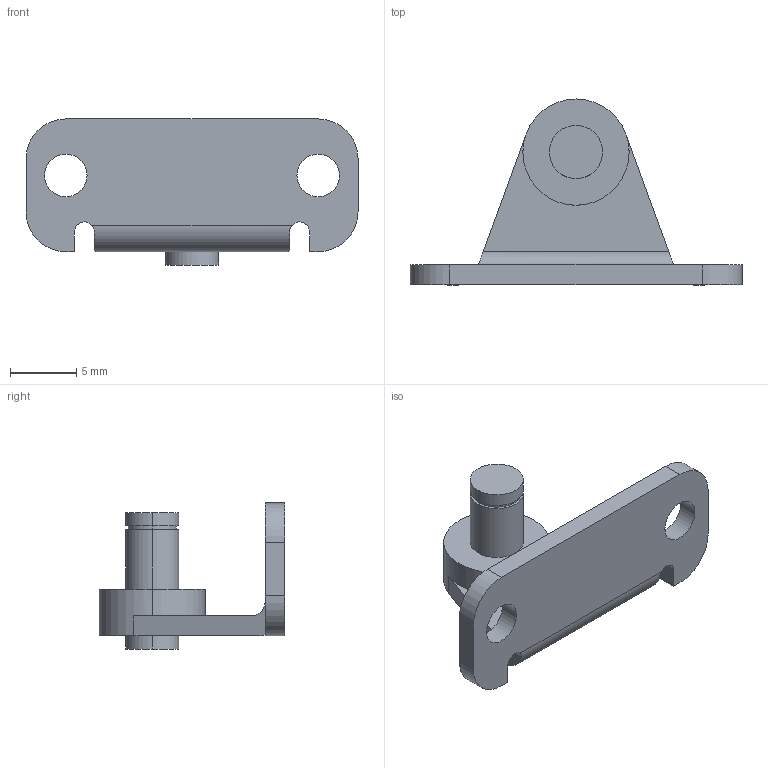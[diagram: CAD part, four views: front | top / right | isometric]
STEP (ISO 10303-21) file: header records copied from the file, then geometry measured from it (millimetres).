
FILE_DESCRIPTION (( 'STEP AP214' ), '1' );
FILE_NAME ('15.BS412.STEP', '2017-11-22T21:10:17', ( '' ), ( '' ), 'SwSTEP 2.0', 'SolidWorks 2016', '' );
FILE_SCHEMA (( 'AUTOMOTIVE_DESIGN' ));
Length unit declared in the file: millimetre
Products named in the file (1): 15.BS412
Bounding box: 25 x 14 x 11 mm (x, y, z)
Volume: 691.5 mm3; surface area: 970.7 mm2
Topology: 1 solids, 1 shells, 42 faces, 106 edges, 70 vertices
Faces by surface type: cylinder 22, plane 20
Entity records: 1322 total; most frequent: CARTESIAN_POINT 237, DIRECTION 230, ORIENTED_EDGE 212, EDGE_CURVE 106, AXIS2_PLACEMENT_3D 87, VERTEX_POINT 70, LINE 56, VECTOR 56
